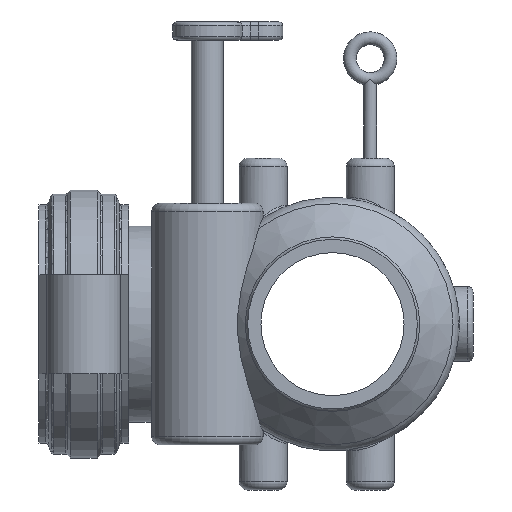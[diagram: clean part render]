
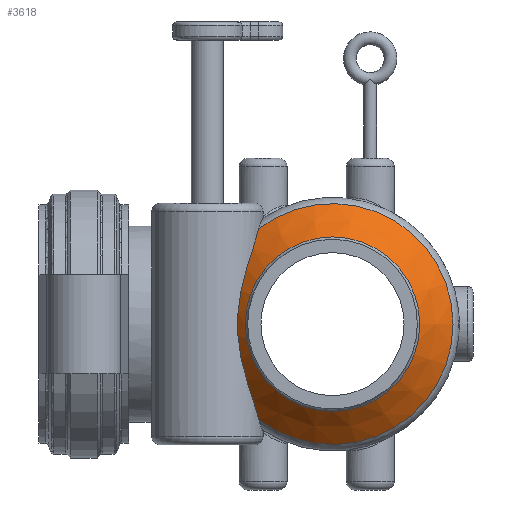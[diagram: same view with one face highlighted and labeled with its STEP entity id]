
A CAD part, left-side view. The second image highlights one B-rep face of the part: STEP entity #3618.
In plain terms, the highlighted conical face has half-angle 45 degrees and reference radius 61.566 mm.
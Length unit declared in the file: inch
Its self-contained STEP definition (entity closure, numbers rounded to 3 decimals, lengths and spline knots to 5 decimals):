
#94=CONICAL_SURFACE('',#4029,2.42387,0.785);
#409=FACE_OUTER_BOUND('',#625,.T.);
#625=EDGE_LOOP('',(#3089,#3090,#3091,#3092,#3093,#3094,#3095,#3096));
#842=CIRCLE('',#4004,2.81209);
#843=CIRCLE('',#4005,2.81209);
#861=CIRCLE('',#4030,2.03565);
#862=CIRCLE('',#4031,2.03565);
#863=CIRCLE('',#4032,2.03565);
#1018=LINE('',#8100,#1156);
#1156=VECTOR('',#4980,2.42387);
#1263=B_SPLINE_CURVE_WITH_KNOTS('',3,(#7580,#7581,#7582,#7583,#7584,#7585,
#7586,#7587,#7588,#7589,#7590,#7591,#7592,#7593,#7594,#7595,#7596,#7597,
#7598,#7599,#7600,#7601,#7602,#7603,#7604,#7605),.UNSPECIFIED.,.F.,.F.,
(4,2,2,2,2,2,2,2,2,2,2,2,4),(3.25991,3.49133,4.65511,
5.81888,6.98266,8.14644,9.31022,10.47399,
11.63777,12.80155,13.96532,15.1291,15.36052),
 .UNSPECIFIED.);
#1528=VERTEX_POINT('',#7570);
#1529=VERTEX_POINT('',#7579);
#1562=VERTEX_POINT('',#8049);
#1578=VERTEX_POINT('',#8095);
#1579=VERTEX_POINT('',#8096);
#1580=VERTEX_POINT('',#8098);
#1998=EDGE_CURVE('',#1529,#1528,#1263,.T.);
#2066=EDGE_CURVE('',#1562,#1529,#842,.T.);
#2067=EDGE_CURVE('',#1528,#1562,#843,.T.);
#2089=EDGE_CURVE('',#1578,#1579,#861,.T.);
#2090=EDGE_CURVE('',#1580,#1578,#862,.T.);
#2091=EDGE_CURVE('',#1580,#1562,#1018,.T.);
#2092=EDGE_CURVE('',#1579,#1580,#863,.T.);
#3089=ORIENTED_EDGE('',*,*,#2089,.F.);
#3090=ORIENTED_EDGE('',*,*,#2090,.F.);
#3091=ORIENTED_EDGE('',*,*,#2091,.T.);
#3092=ORIENTED_EDGE('',*,*,#2066,.T.);
#3093=ORIENTED_EDGE('',*,*,#1998,.T.);
#3094=ORIENTED_EDGE('',*,*,#2067,.T.);
#3095=ORIENTED_EDGE('',*,*,#2091,.F.);
#3096=ORIENTED_EDGE('',*,*,#2092,.F.);
#3618=ADVANCED_FACE('',(#409),#94,.T.);
#4004=AXIS2_PLACEMENT_3D('',#8050,#4920,#4921);
#4005=AXIS2_PLACEMENT_3D('',#8051,#4922,#4923);
#4029=AXIS2_PLACEMENT_3D('',#8094,#4974,#4975);
#4030=AXIS2_PLACEMENT_3D('',#8097,#4976,#4977);
#4031=AXIS2_PLACEMENT_3D('',#8099,#4978,#4979);
#4032=AXIS2_PLACEMENT_3D('',#8101,#4981,#4982);
#4920=DIRECTION('center_axis',(-1.,0.,0.));
#4921=DIRECTION('ref_axis',(0.,0.,1.));
#4922=DIRECTION('center_axis',(-1.,0.,0.));
#4923=DIRECTION('ref_axis',(0.,0.,1.));
#4974=DIRECTION('center_axis',(1.,0.,0.));
#4975=DIRECTION('ref_axis',(0.,1.,0.));
#4976=DIRECTION('center_axis',(-1.,0.,0.));
#4977=DIRECTION('ref_axis',(0.,0.,1.));
#4978=DIRECTION('center_axis',(-1.,0.,0.));
#4979=DIRECTION('ref_axis',(0.,0.,1.));
#4980=DIRECTION('',(0.707,-0.707,0.));
#4981=DIRECTION('center_axis',(-1.,0.,0.));
#4982=DIRECTION('ref_axis',(0.,0.,1.));
#7570=CARTESIAN_POINT('',(-2.83791,1.71913,-2.2254));
#7579=CARTESIAN_POINT('',(-2.83791,1.71913,2.2254));
#7580=CARTESIAN_POINT('Ctrl Pts',(-2.83791,1.71913,2.2254));
#7581=CARTESIAN_POINT('Ctrl Pts',(-2.85375,1.7257,2.20031));
#7582=CARTESIAN_POINT('Ctrl Pts',(-2.86932,1.73252,2.17509));
#7583=CARTESIAN_POINT('Ctrl Pts',(-2.96143,1.77502,2.02221));
#7584=CARTESIAN_POINT('Ctrl Pts',(-3.03098,1.81631,1.89119));
#7585=CARTESIAN_POINT('Ctrl Pts',(-3.15297,1.90281,1.62195));
#7586=CARTESIAN_POINT('Ctrl Pts',(-3.20548,1.94805,1.48351));
#7587=CARTESIAN_POINT('Ctrl Pts',(-3.293,2.0337,1.19981));
#7588=CARTESIAN_POINT('Ctrl Pts',(-3.32805,2.07404,1.05455));
#7589=CARTESIAN_POINT('Ctrl Pts',(-3.3824,2.14199,0.75905));
#7590=CARTESIAN_POINT('Ctrl Pts',(-3.40178,2.16958,0.60876));
#7591=CARTESIAN_POINT('Ctrl Pts',(-3.42722,2.20693,0.30559));
#7592=CARTESIAN_POINT('Ctrl Pts',(-3.43332,2.21668,0.15273));
#7593=CARTESIAN_POINT('Ctrl Pts',(-3.43332,2.21668,-0.15273));
#7594=CARTESIAN_POINT('Ctrl Pts',(-3.42722,2.20693,-0.30559));
#7595=CARTESIAN_POINT('Ctrl Pts',(-3.40178,2.16958,-0.60876));
#7596=CARTESIAN_POINT('Ctrl Pts',(-3.3824,2.14199,-0.75905));
#7597=CARTESIAN_POINT('Ctrl Pts',(-3.32805,2.07404,-1.05455));
#7598=CARTESIAN_POINT('Ctrl Pts',(-3.293,2.0337,-1.19981));
#7599=CARTESIAN_POINT('Ctrl Pts',(-3.20548,1.94805,-1.48351));
#7600=CARTESIAN_POINT('Ctrl Pts',(-3.15297,1.90281,-1.62195));
#7601=CARTESIAN_POINT('Ctrl Pts',(-3.03098,1.81631,-1.89119));
#7602=CARTESIAN_POINT('Ctrl Pts',(-2.96143,1.77502,-2.02221));
#7603=CARTESIAN_POINT('Ctrl Pts',(-2.86932,1.73252,-2.17509));
#7604=CARTESIAN_POINT('Ctrl Pts',(-2.85375,1.7257,-2.20031));
#7605=CARTESIAN_POINT('Ctrl Pts',(-2.83791,1.71913,-2.2254));
#8049=CARTESIAN_POINT('',(-2.83791,-2.81209,0.));
#8050=CARTESIAN_POINT('Origin',(-2.83791,0.,0.));
#8051=CARTESIAN_POINT('Origin',(-2.83791,0.,0.));
#8094=CARTESIAN_POINT('Origin',(-3.22613,0.,0.));
#8095=CARTESIAN_POINT('',(-3.61435,2.03565,0.));
#8096=CARTESIAN_POINT('',(-3.61435,0.,-2.03565));
#8097=CARTESIAN_POINT('Origin',(-3.61435,0.,0.));
#8098=CARTESIAN_POINT('',(-3.61435,-2.03565,0.));
#8099=CARTESIAN_POINT('Origin',(-3.61435,0.,0.));
#8100=CARTESIAN_POINT('',(-3.22613,-2.42387,0.));
#8101=CARTESIAN_POINT('Origin',(-3.61435,0.,0.));
